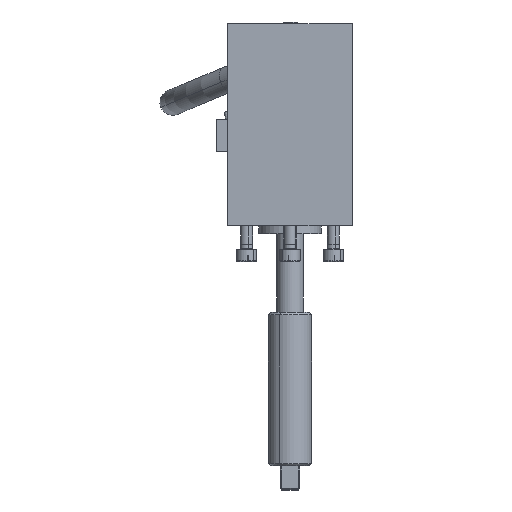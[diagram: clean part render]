
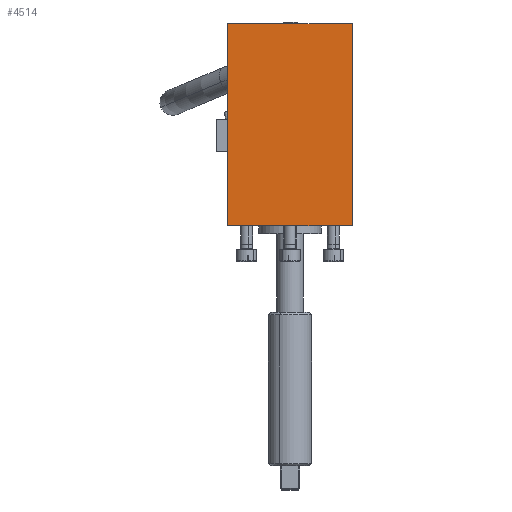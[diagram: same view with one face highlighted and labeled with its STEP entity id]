
A CAD part, top view. The second image highlights one B-rep face of the part: STEP entity #4514.
In plain terms, the highlighted planar face has unit normal (0, 0, 1).
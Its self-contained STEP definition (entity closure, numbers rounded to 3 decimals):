
#4377=CARTESIAN_POINT('Vertex',(40.,-58.2,445.1)) ;
#4382=CARTESIAN_POINT('Line Origine',(0.,-58.2,445.1)) ;
#4386=CARTESIAN_POINT('Vertex',(-40.,-58.2,445.1)) ;
#4484=CARTESIAN_POINT('Axis2P3D Location',(-40.,72.,445.1)) ;
#4489=CARTESIAN_POINT('Line Origine',(40.,6.9,445.1)) ;
#4493=CARTESIAN_POINT('Vertex',(40.,72.,445.1)) ;
#4496=CARTESIAN_POINT('Line Origine',(0.,72.,445.1)) ;
#4500=CARTESIAN_POINT('Vertex',(-40.,72.,445.1)) ;
#4503=CARTESIAN_POINT('Line Origine',(-40.,6.9,445.1)) ;
#4383=DIRECTION('Vector Direction',(1.,0.,0.)) ;
#4485=DIRECTION('Axis2P3D Direction',(0.,0.,-1.)) ;
#4486=DIRECTION('Axis2P3D XDirection',(1.,0.,0.)) ;
#4490=DIRECTION('Vector Direction',(0.,-1.,0.)) ;
#4497=DIRECTION('Vector Direction',(1.,0.,0.)) ;
#4504=DIRECTION('Vector Direction',(0.,-1.,0.)) ;
#4487=AXIS2_PLACEMENT_3D('Plane Axis2P3D',#4484,#4485,#4486) ;
#4509=ORIENTED_EDGE('',*,*,#4388,.T.) ;
#4510=ORIENTED_EDGE('',*,*,#4495,.F.) ;
#4511=ORIENTED_EDGE('',*,*,#4502,.F.) ;
#4512=ORIENTED_EDGE('',*,*,#4507,.T.) ;
#4384=VECTOR('Line Direction',#4383,1.) ;
#4491=VECTOR('Line Direction',#4490,1.) ;
#4498=VECTOR('Line Direction',#4497,1.) ;
#4505=VECTOR('Line Direction',#4504,1.) ;
#4514=ADVANCED_FACE('',(#4513),#4488,.F.) ;
#4388=EDGE_CURVE('',#4387,#4378,#4385,.T.) ;
#4495=EDGE_CURVE('',#4494,#4378,#4492,.T.) ;
#4502=EDGE_CURVE('',#4501,#4494,#4499,.T.) ;
#4507=EDGE_CURVE('',#4501,#4387,#4506,.T.) ;
#4508=EDGE_LOOP('',(#4509,#4510,#4511,#4512)) ;
#4513=FACE_OUTER_BOUND('',#4508,.T.) ;
#4385=LINE('Line',#4382,#4384) ;
#4492=LINE('Line',#4489,#4491) ;
#4499=LINE('Line',#4496,#4498) ;
#4506=LINE('Line',#4503,#4505) ;
#4488=PLANE('Plane',#4487) ;
#4378=VERTEX_POINT('',#4377) ;
#4387=VERTEX_POINT('',#4386) ;
#4494=VERTEX_POINT('',#4493) ;
#4501=VERTEX_POINT('',#4500) ;
